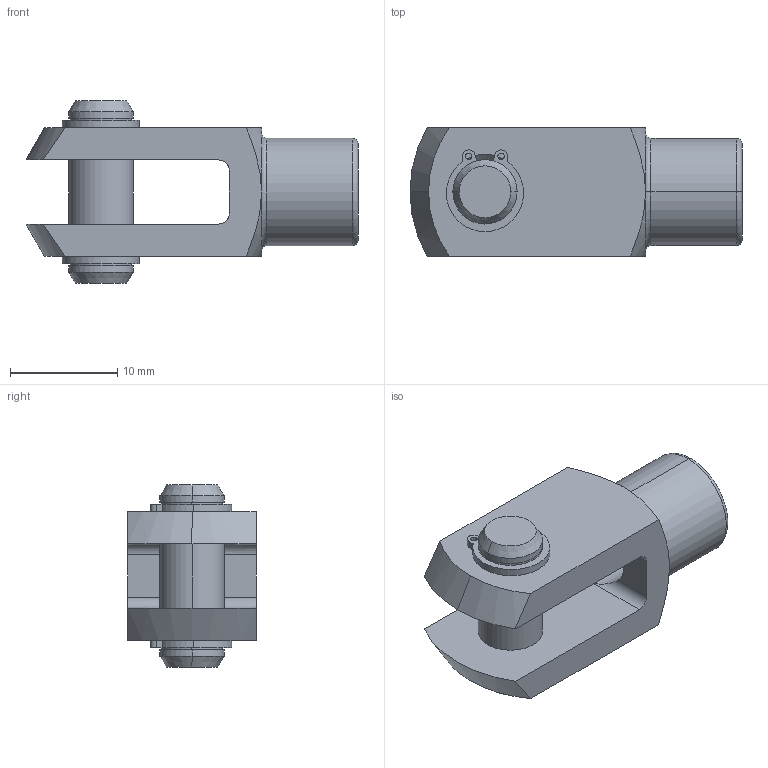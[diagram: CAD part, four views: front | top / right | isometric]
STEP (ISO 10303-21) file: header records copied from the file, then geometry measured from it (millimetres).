
FILE_DESCRIPTION (( 'STEP AP203' ), '1' );
FILE_NAME ('65616.W0061.step', '2014-01-18T10:30:29', ( 'User' ), ( '' ), 'SwSTEP 2.0', 'SolidWorks 2009', '' );
FILE_SCHEMA (( 'CONFIG_CONTROL_DESIGN' ));
Length unit declared in the file: millimetre
Products named in the file (4): 65616.W0061; Part1_65636.W0061; Part2_65666.W0006; Part3_65678.W0006
Assembly tree (4 placements, depth 2):
  65616.W0061
    Part1_65636.W0061
    Part3_65678.W0006  x2
    Part2_65666.W0006
Bounding box: 31 x 12 x 17 mm (x, y, z)
Volume: 2362 mm3; surface area: 2365.8 mm2
Topology: 4 solids, 4 shells, 95 faces, 227 edges, 144 vertices
Faces by surface type: cylinder 46, plane 28, cone 17, torus 4
Entity records: 2747 total; most frequent: CARTESIAN_POINT 479, DIRECTION 423, ORIENTED_EDGE 358, EDGE_CURVE 179, AXIS2_PLACEMENT_3D 176, VERTEX_POINT 112, CIRCLE 92, EDGE_LOOP 91
